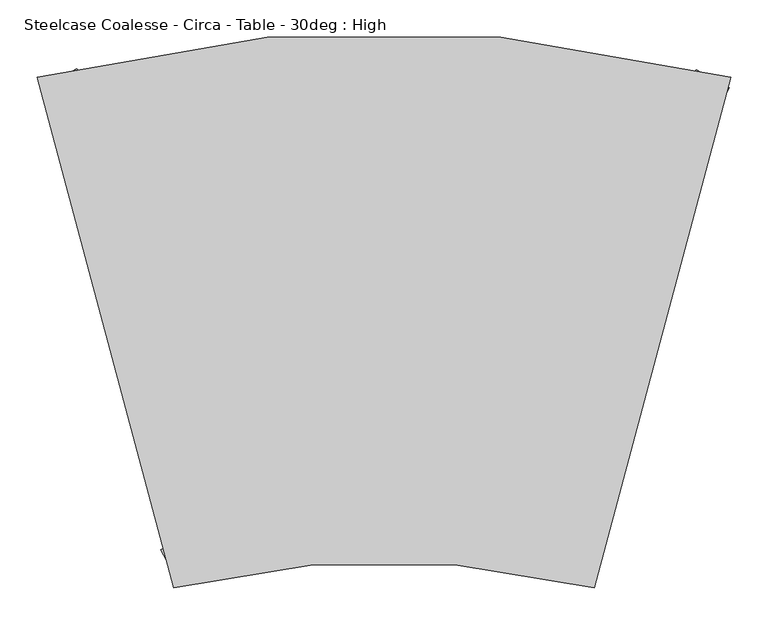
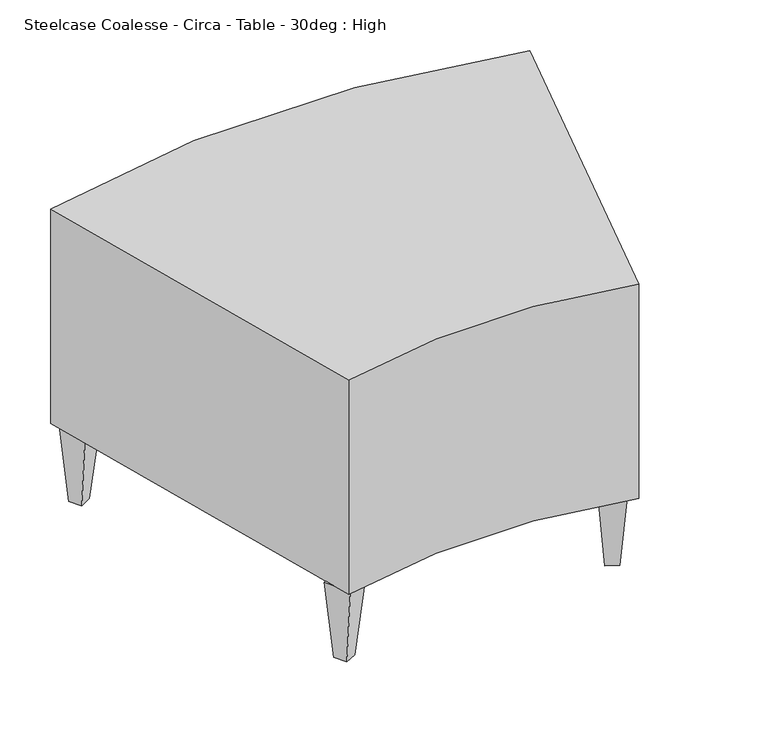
"""IFC4 building model written with IfcOpenShell, lengths in millimetres: furniture geometry, Steelcase Coalesse - Circa - Table - 30deg : High."""

from ifc_helpers import new_model, si_unit, point, frame, frame_2d, origin, place, context, project, spatial, polyline, circle_curve, trimmed, segment, composite_curve, outline, extrude, faceted_brep, source, transform, mapped, element, save


def steelcase_coalesse_circa_table_30deg_high_dc8d9c8f(model_context):
    return source(origin(), model_context, "Body", "SolidModel", [
        faceted_brep([(-160.8847996, 222.2278019, 0.0), (-186.2811112, 222.6606517, 0.0), (-185.8423568, 248.403399, 0.0), (-160.4460452, 247.9705492, 0.0), (-148.7685925, 207.3430261, 159.258), (-147.9009389, 258.2502956, 159.258), (-198.693562, 259.1159952, 159.258), (-199.5612157, 208.2087257, 159.258)], [[[0, 1, 2, 3]], [[4, 5, 6, 7]], [[4, 7, 1, 0]], [[7, 6, 2, 1]], [[6, 5, 3, 2]], [[5, 4, 0, 3]]]),
        faceted_brep([(-603.9595221, 189.5799787, 0.0), (-626.2775122, 177.4528471, 0.0), (-638.5700722, 200.0752809, 0.0), (-616.2520822, 212.2024125, 0.0), (-586.0850859, 182.5897316, 159.258), (-610.3940945, 227.3264616, 159.258), (-655.0300746, 203.0721984, 159.258), (-630.721066, 158.3354684, 159.258)], [[[0, 1, 2, 3]], [[4, 5, 6, 7]], [[4, 7, 1, 0]], [[7, 6, 2, 1]], [[6, 5, 3, 2]], [[5, 4, 0, 3]]]),
        faceted_brep([(-446.3868288, -432.9045498, 0.0), (-468.704816, -445.0316867, 0.0), (-480.9973814, -422.4092558, 0.0), (-458.6793943, -410.2821189, 0.0), (-428.5123909, -439.8947926, 159.258), (-452.8214103, -395.1580684, 159.258), (-497.4573845, -419.4123423, 159.258), (-473.1483652, -464.1490665, 159.258)], [[[0, 1, 2, 3]], [[4, 5, 6, 7]], [[4, 7, 1, 0]], [[7, 6, 2, 1]], [[6, 5, 3, 2]], [[5, 4, 0, 3]]]),
        faceted_brep([(216.48048, 188.5948915, 0.0), (228.77304, 211.2173254, 0.0), (251.09103, 199.0901937, 0.0), (238.79847, 176.4677599, 0.0), (198.6060438, 181.6046445, 159.258), (243.2420238, 157.3503812, 159.258), (267.5510324, 202.0871112, 159.258), (222.9150524, 226.3413744, 159.258)], [[[0, 1, 2, 3]], [[4, 5, 6, 7]], [[4, 7, 1, 0]], [[7, 6, 2, 1]], [[6, 5, 3, 2]], [[5, 4, 0, 3]]]),
        faceted_brep([(50.5111866, -417.1245347, 0.0), (62.8037521, -394.5021038, 0.0), (85.1217392, -406.6292408, 0.0), (72.8291738, -429.2516716, 0.0), (32.6367487, -424.1147775, 159.258), (77.272723, -448.3690514, 159.258), (101.5817423, -403.6323272, 159.258), (56.9457681, -379.3780533, 159.258)], [[[0, 1, 2, 3]], [[4, 5, 6, 7]], [[4, 7, 1, 0]], [[7, 6, 2, 1]], [[6, 5, 3, 2]], [[5, 4, 0, 3]]]),
        extrude(outline(composite_curve([segment(trimmed(circle_curve(frame_2d((-197.1636369, -1610.211898)), 1174.0260013), [point((85.5185257, -470.7261164))], [point((-479.8457995, -470.7261164))], True, "CARTESIAN"), True, "CONTINUOUS"), segment(polyline([(-479.8457995, -470.7261164), (-663.917922, 216.2403236)]), True, "CONTINUOUS"), segment(trimmed(circle_curve(frame_2d((-197.1636496, -1551.8243335)), 1828.6367005), [point((-663.917922, 216.2403236))], [point((269.5906228, 216.2403236))], False, "CARTESIAN"), True, "CONTINUOUS"), segment(polyline([(269.5906228, 216.2403236), (85.5185257, -470.7261164)]), True, "CONTINUOUS")], self_intersect=False)), frame((0.0, 0.0, 159.258), z_axis=(0.0, 0.0, 1.0), x_axis=(1.0, 0.0, 0.0)), (0.0, 0.0, 1.0), 442.214),
    ])


if __name__ == "__main__":
    model = new_model("IFC4")
    model_context = context("Model", 3, world=origin())
    ifc_project = project(units=[si_unit("LENGTHUNIT", "METRE", prefix="MILLI")], contexts=[model_context])
    site = spatial("IfcSite", under=ifc_project)
    building = spatial("IfcBuilding", under=site)
    placement = place(None, origin())
    steelcase_coalesse_circa_table_30deg_high_shape = steelcase_coalesse_circa_table_30deg_high_dc8d9c8f(model_context)
    element("IfcFurniture", 1, ObjectType="Steelcase Coalesse - Circa - Table - 30deg : High", at=placement, inside=building, context=model_context, shape_type="MappedRepresentation", body=[
        mapped(steelcase_coalesse_circa_table_30deg_high_shape, transform((0.0, 0.0, 0.0), x_axis=(1.0, 0.0, 0.0), y_axis=(0.0, 1.0, 0.0), z_axis=(0.0, 0.0, 1.0))),
    ])
    save(model, "model.ifc")
